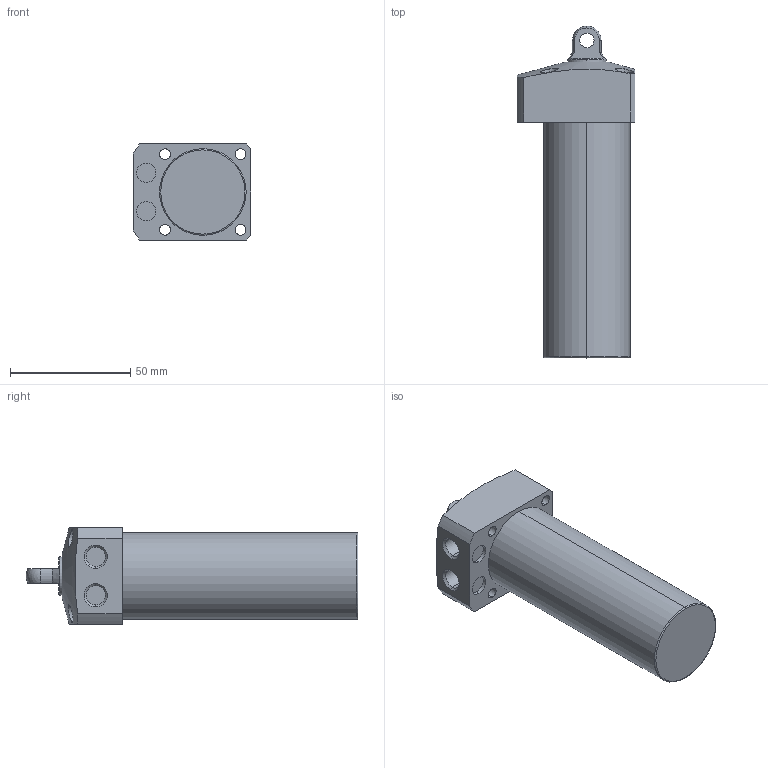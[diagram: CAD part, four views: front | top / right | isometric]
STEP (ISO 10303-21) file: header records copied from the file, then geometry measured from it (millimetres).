
FILE_DESCRIPTION (( 'STEP AP203' ), '1' );
FILE_NAME ('CLL036-CP-075.STEP', '2017-05-17T06:25:12', ( '' ), ( '' ), 'SwSTEP 2.0', 'SolidWorks 2015', '' );
FILE_SCHEMA (( 'CONFIG_CONTROL_DESIGN' ));
Length unit declared in the file: millimetre
Products named in the file (1): CLL036-CP-075
Bounding box: 49 x 138 x 40 mm (x, y, z)
Volume: 141140.6 mm3; surface area: 21131.4 mm2
Topology: 1 solids, 1 shells, 67 faces, 162 edges, 105 vertices
Faces by surface type: cylinder 34, plane 21, cone 8, sphere 2, torus 2
Entity records: 2347 total; most frequent: CARTESIAN_POINT 663, DIRECTION 354, ORIENTED_EDGE 316, EDGE_CURVE 158, AXIS2_PLACEMENT_3D 148, VERTEX_POINT 103, EDGE_LOOP 87, CIRCLE 80
